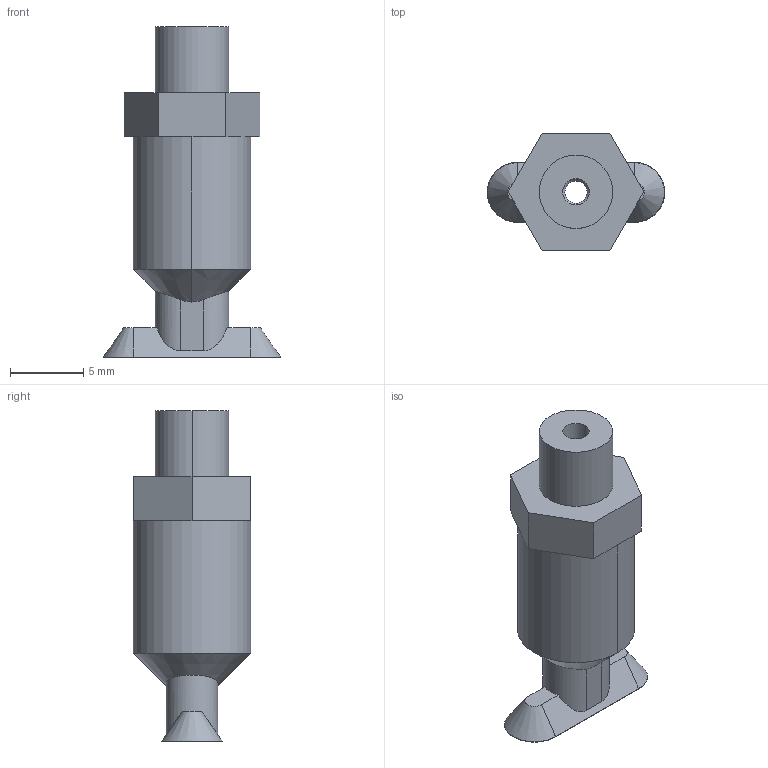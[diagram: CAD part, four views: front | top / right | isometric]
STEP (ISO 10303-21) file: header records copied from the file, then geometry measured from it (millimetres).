
FILE_DESCRIPTION(('STEP AP214'),'1');
FILE_NAME('10_01_05_00406.stp','2021-01-28T16:52:21',('TraceParts'),('TraceParts S.A.'),'Spatial InterOp 3D',' ',' ');
FILE_SCHEMA(('AUTOMOTIVE_DESIGN { 1 0 10303 214 1 1 1 1 }'));
Length unit declared in the file: millimetre
Products named in the file (1): 10_01_05_00406
Bounding box: 12.1 x 8 x 22.5 mm (x, y, z)
Volume: 760.4 mm3; surface area: 786.9 mm2
Topology: 1 solids, 1 shells, 45 faces, 106 edges, 66 vertices
Faces by surface type: plane 25, cylinder 12, cone 8
Entity records: 1729 total; most frequent: CARTESIAN_POINT 300, DIRECTION 222, ORIENTED_EDGE 212, EDGE_CURVE 106, AXIS2_PLACEMENT_3D 80, VERTEX_POINT 66, LINE 62, VECTOR 62
